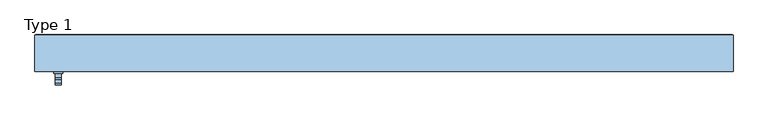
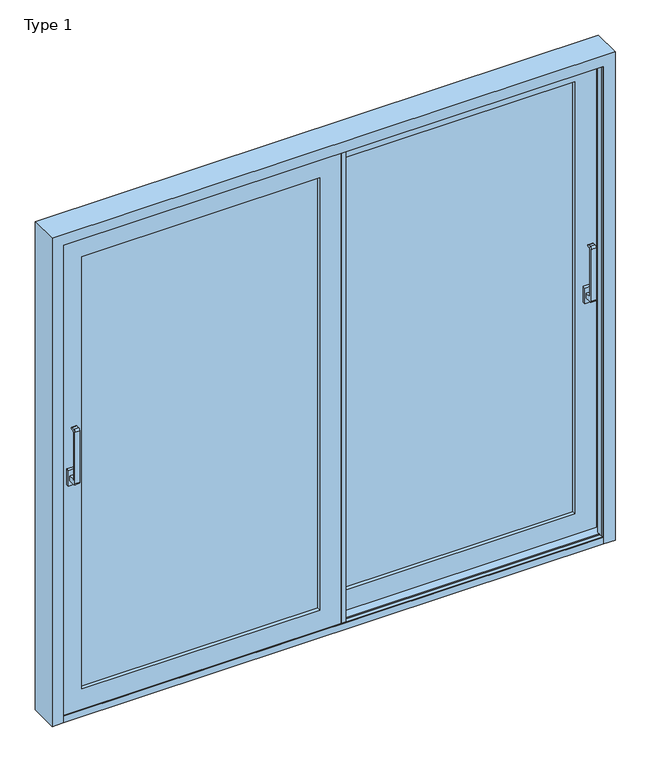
"""IFC4 building model written with IfcOpenShell, lengths in millimetres: window geometry, ETEM_E50_Double_Lift_Sliding_FR : Type 1."""

import ifcopenshell
import ifcopenshell.guid

model = None  # the IFC model being written
_history = None  # IfcOwnerHistory: only IFC2X3 demands one
_inside = {}  # id of a spatial element -> (the spatial element, [elements in it])
_under = {}  # id of a project, library or spatial element -> (it, [spatial elements below it])
_declared = {}  # id of a project -> (the project, [libraries it declares])
_typed = {}  # id of a type object -> (the type object, [elements of that type])
_made_of = {}  # id of a material, layer set ... -> (it, [elements and type objects made of it])


def new_model(schema):
    """Start an empty IFC model of exactly this schema.

    Asked for "IFC4X3", IfcOpenShell would pick the latest addendum, in which some entities
    have other attributes; the version numbers below select the first issue.
    IFC2X3 requires an IfcOwnerHistory on every rooted entity: one is made here for all.
    """
    global model, _history
    if schema == "IFC4X3":
        model = ifcopenshell.file(schema_version=(4, 3, 0, 0))
    else:
        model = ifcopenshell.file(schema=schema)
    _inside.clear()
    _under.clear()
    _declared.clear()
    _typed.clear()
    _made_of.clear()
    _history = None
    if model.schema == "IFC2X3":
        org = make("IfcOrganization", Name="unknown")
        user = make(
            "IfcPersonAndOrganization",
            ThePerson=make("IfcPerson", FamilyName="unknown"),
            TheOrganization=org,
        )
        app = make(
            "IfcApplication",
            ApplicationDeveloper=org,
            Version="unknown",
            ApplicationFullName="unknown",
            ApplicationIdentifier="unknown",
        )
        _history = make(
            "IfcOwnerHistory",
            OwningUser=user,
            OwningApplication=app,
            ChangeAction="ADDED",
            CreationDate=0,
        )
    return model


def make(cls, **values):
    """One entity of the class cls with the attributes given. An attribute that is None is left unset."""
    return model.create_entity(
        cls, **{name: value for name, value in values.items() if value is not None}
    )


def rooted(cls, **values):
    """An entity with a GlobalId (a new one), such as an element, a storey or a relation."""
    return make(cls, GlobalId=ifcopenshell.guid.new(), OwnerHistory=_history, **values)


def si_unit(unit_type, name, prefix=None):
    """IfcSIUnit, for example si_unit("LENGTHUNIT", "METRE", prefix="MILLI")."""
    return make("IfcSIUnit", UnitType=unit_type, Prefix=prefix, Name=name)


def assignment(units):
    """IfcUnitAssignment: the units of a project."""
    return None if units is None else make("IfcUnitAssignment", Units=units)


def point(xyz):
    """IfcCartesianPoint."""
    return None if xyz is None else make("IfcCartesianPoint", Coordinates=xyz)


def direction(xyz):
    """IfcDirection."""
    return None if xyz is None else make("IfcDirection", DirectionRatios=xyz)


def frame(location, z_axis=None, x_axis=None):
    """IfcAxis2Placement3D, a coordinate frame: its origin and axes. An axis left out is left unset."""
    return make(
        "IfcAxis2Placement3D",
        Location=point(location),
        Axis=direction(z_axis),
        RefDirection=direction(x_axis),
    )


def frame_2d(location, x_axis=None):
    """IfcAxis2Placement2D, a coordinate frame in the plane: its origin and x axis."""
    return make(
        "IfcAxis2Placement2D", Location=point(location), RefDirection=direction(x_axis)
    )


def origin():
    """The frame at (0, 0, 0) with its axes left unset."""
    return frame((0.0, 0.0, 0.0))


def place(relative_to, where):
    """IfcLocalPlacement: puts the frame where relative to a parent placement (None: the world)."""
    return make(
        "IfcLocalPlacement", PlacementRelTo=relative_to, RelativePlacement=where
    )


def context(
    kind, dimensions, precision=None, world=None, true_north=None, identifier=None
):
    """IfcGeometricRepresentationContext, for example the 3D "Model" context."""
    return make(
        "IfcGeometricRepresentationContext",
        ContextIdentifier=identifier,
        ContextType=kind,
        CoordinateSpaceDimension=dimensions,
        Precision=precision,
        WorldCoordinateSystem=world,
        TrueNorth=true_north,
    )


def project(units=None, contexts=None):
    """IfcProject with its units and contexts."""
    return rooted(
        "IfcProject",
        Name="project",
        RepresentationContexts=contexts,
        UnitsInContext=assignment(units),
    )


def spatial(cls, under=None, at=None, **own):
    """A site, building, storey or space (cls), placed at a placement, below another one or the project."""
    s = rooted(cls, ObjectPlacement=at, **own)
    if under is not None:
        _under.setdefault(under.id(), (under, []))[1].append(s)
    return s


def polyline(points):
    """IfcPolyline through the points."""
    return make("IfcPolyline", Points=[point(p) for p in points])


def circle_curve(where, radius):
    """IfcCircle in the frame where."""
    return make("IfcCircle", Position=where, Radius=radius)


def trimmed(basis, trim1, trim2, sense, master):
    """IfcTrimmedCurve: the piece of a basis curve between two trims."""
    return make(
        "IfcTrimmedCurve",
        BasisCurve=basis,
        Trim1=trim1,
        Trim2=trim2,
        SenseAgreement=sense,
        MasterRepresentation=master,
    )


def segment(curve, same_sense, transition):
    """IfcCompositeCurveSegment."""
    return make(
        "IfcCompositeCurveSegment",
        Transition=transition,
        SameSense=same_sense,
        ParentCurve=curve,
    )


def composite_curve(segments, self_intersect=None):
    """IfcCompositeCurve: segments joined end to end."""
    return make("IfcCompositeCurve", Segments=segments, SelfIntersect=self_intersect)


def outline(outer, holes=None, kind="AREA"):
    """IfcArbitraryClosedProfileDef: a profile drawn as a closed curve; with holes, ...WithVoids."""
    if holes is None:
        return make("IfcArbitraryClosedProfileDef", ProfileType=kind, OuterCurve=outer)
    return make(
        "IfcArbitraryProfileDefWithVoids",
        ProfileType=kind,
        OuterCurve=outer,
        InnerCurves=holes,
    )


def extrude(swept, where, along, depth):
    """IfcExtrudedAreaSolid: the profile swept, set in the frame where, extruded along a direction by depth."""
    return make(
        "IfcExtrudedAreaSolid",
        SweptArea=swept,
        Position=where,
        ExtrudedDirection=direction(along),
        Depth=depth,
    )


def faces_of(points, faces, orient=None, outer=None):
    """IfcFace entities. A face is a list of loops; a loop is a list of indices into points, from 0.

    orient and outer hold one flag for each loop. By default every Orientation is true, the
    first loop of a face is its IfcFaceOuterBound and the others are IfcFaceBound.
    """
    made = []
    for i, loops in enumerate(faces):
        bounds = []
        for j, loop in enumerate(loops):
            is_outer = j == 0 if outer is None else outer[i][j]
            bounds.append(
                make(
                    "IfcFaceOuterBound" if is_outer else "IfcFaceBound",
                    Bound=make("IfcPolyLoop", Polygon=[points[k] for k in loop]),
                    Orientation=True if orient is None else orient[i][j],
                )
            )
        made.append(make("IfcFace", Bounds=bounds))
    return made


def faceted_brep(points, faces, orient=None, outer=None, voids=None):
    """IfcFacetedBrep: a solid bounded by flat faces; with voids (closed shells), ...WithVoids."""
    shared = [point(p) for p in points]
    hull = make("IfcClosedShell", CfsFaces=faces_of(shared, faces, orient, outer))
    if voids is None:
        return make("IfcFacetedBrep", Outer=hull)
    return make(
        "IfcFacetedBrepWithVoids",
        Outer=hull,
        Voids=[
            make(cls, CfsFaces=faces_of(shared, fs, o, b)) for cls, fs, o, b in voids
        ],
    )


def shape(context_of_items, identifier, shape_type, items):
    """IfcShapeRepresentation: the items that make up one representation, for example the "Body"."""
    return make(
        "IfcShapeRepresentation",
        ContextOfItems=context_of_items,
        RepresentationIdentifier=identifier,
        RepresentationType=shape_type,
        Items=items,
    )


def source(mapping_origin, context_of_items, identifier, shape_type, items):
    """IfcRepresentationMap: a shape defined once, which mapped items show again and again."""
    return make(
        "IfcRepresentationMap",
        MappingOrigin=mapping_origin,
        MappedRepresentation=shape(context_of_items, identifier, shape_type, items),
    )


def transform(
    local_origin,
    x_axis=None,
    y_axis=None,
    z_axis=None,
    scale=None,
    scale2=None,
    scale3=None,
    uniform=True,
):
    """IfcCartesianTransformationOperator3D, or its non-uniform kind. x_axis, y_axis, z_axis: its Axis1, 2, 3."""
    if uniform:
        return make(
            "IfcCartesianTransformationOperator3D",
            Axis1=direction(x_axis),
            Axis2=direction(y_axis),
            LocalOrigin=point(local_origin),
            Scale=scale,
            Axis3=direction(z_axis),
        )
    return make(
        "IfcCartesianTransformationOperator3DnonUniform",
        Axis1=direction(x_axis),
        Axis2=direction(y_axis),
        LocalOrigin=point(local_origin),
        Scale=scale,
        Axis3=direction(z_axis),
        Scale2=scale2,
        Scale3=scale3,
    )


def mapped(mapping_source, mapping_target):
    """IfcMappedItem: shows the shape of a source again, moved by a transform."""
    return make(
        "IfcMappedItem", MappingSource=mapping_source, MappingTarget=mapping_target
    )


def made_of(thing, what):
    """Note that an element or type object is made of a material, layer set ...; save() writes the relation."""
    if what is not None:
        _made_of.setdefault(what.id(), (what, []))[1].append(thing)
    return thing


def element(
    cls,
    number,
    at=None,
    inside=None,
    cuts=None,
    type_object=None,
    material=None,
    context=None,
    identifier="Body",
    shape_type=None,
    held_by="IfcProductDefinitionShape",
    body=None,
    shapes=None,
    **own,
):
    """One element of the class cls, such as IfcWall. Its Tag is "e" and its number.

    at: its placement. inside: the storey or other place that contains it. cuts: it is an
    opening in that element (IfcRelVoidsElement). A single representation is given by context,
    identifier, shape_type and body (its items); several are given by shapes. held_by: the class
    of the entity that holds the representations. save() writes the other relations.
    """
    e = rooted(cls, Tag="e%d" % number, ObjectPlacement=at, **own)
    if body is not None:
        shapes = [shape(context, identifier, shape_type, body)]
    if shapes is not None:
        e.Representation = make(held_by, Representations=shapes)
    if inside is not None:
        _inside.setdefault(inside.id(), (inside, []))[1].append(e)
    if cuts is not None:
        rooted(
            "IfcRelVoidsElement", RelatingBuildingElement=cuts, RelatedOpeningElement=e
        )
    if type_object is not None:
        _typed.setdefault(type_object.id(), (type_object, []))[1].append(e)
    return made_of(e, material)


def aggregate(whole, parts):
    """IfcRelAggregates: a whole, such as a stair, and the parts it consists of."""
    return rooted("IfcRelAggregates", RelatingObject=whole, RelatedObjects=parts)


def save(model, path):
    """Write the relations noted so far, then the file.

    IfcRelAggregates (storeys below a building ...), IfcRelContainedInSpatialStructure (elements
    in a storey), IfcRelDefinesByType, IfcRelAssociatesMaterial and IfcRelDeclares: one each for
    every whole, place, type object, material and project.
    """
    for whole, parts in _under.values():
        aggregate(whole, parts)
    for where, things in _inside.values():
        rooted(
            "IfcRelContainedInSpatialStructure",
            RelatedElements=things,
            RelatingStructure=where,
        )
    for kind, things in _typed.values():
        rooted("IfcRelDefinesByType", RelatedObjects=things, RelatingType=kind)
    for what, things in _made_of.values():
        rooted("IfcRelAssociatesMaterial", RelatedObjects=things, RelatingMaterial=what)
    for by, libraries in _declared.values():
        rooted("IfcRelDeclares", RelatingContext=by, RelatedDefinitions=libraries)
    model.write(path)


def type_1_7b7dd12c(model_context):
    return source(origin(), model_context, "Body", "SolidModel", [
        extrude(outline(polyline([(1133.5, 36.3481944), (1103.5, 36.3481944), (1103.5, 49.3481944), (1133.5, 49.3481944), (1133.5, 36.3481944)])), frame((0.0, 0.0, 1065.0), z_axis=(0.0, 0.0, 1.0), x_axis=(1.0, 0.0, 0.0)), (0.0, 0.0, 1.0), 70.0),
        extrude(outline(composite_curve([segment(polyline([(36.3481944, 1090.0), (4.7745096, 1090.0)]), True, "CONTINUOUS"), segment(trimmed(circle_curve(frame_2d((4.7745096, 1098.4263152)), 8.4263152), [point((4.7745096, 1090.0))], [point((-3.6518056, 1098.4263152))], False, "CARTESIAN"), True, "CONTINUOUS"), segment(polyline([(-3.6518056, 1098.4263152), (-3.6518056, 1331.5736848)]), True, "CONTINUOUS"), segment(trimmed(circle_curve(frame_2d((4.7745096, 1331.5736848)), 8.4263152), [point((-3.6518056, 1331.5736848))], [point((4.7745096, 1340.0))], False, "CARTESIAN"), True, "CONTINUOUS"), segment(polyline([(4.7745096, 1340.0), (16.3481944, 1340.0)]), True, "CONTINUOUS"), segment(trimmed(circle_curve(frame_2d((16.3481944, 1335.0)), 5.0), [point((16.3481944, 1340.0))], [point((16.3481944, 1330.0))], False, "CARTESIAN"), True, "CONTINUOUS"), segment(polyline([(16.3481944, 1330.0), (9.8837283, 1330.0)]), True, "CONTINUOUS"), segment(trimmed(circle_curve(frame_2d((9.8837283, 1326.4644661)), 3.5355339), [point((9.8837283, 1330.0))], [point((6.3481944, 1326.4644661))], True, "CARTESIAN"), True, "CONTINUOUS"), segment(polyline([(6.3481944, 1326.4644661), (6.3481944, 1113.5355339)]), True, "CONTINUOUS"), segment(trimmed(circle_curve(frame_2d((9.8837283, 1113.5355339)), 3.5355339), [point((6.3481944, 1113.5355339))], [point((9.8837283, 1110.0))], True, "CARTESIAN"), True, "CONTINUOUS"), segment(polyline([(9.8837283, 1110.0), (36.3481944, 1110.0), (36.3481944, 1090.0)]), True, "CONTINUOUS")], self_intersect=False)), frame((1108.5, 0.0, 0.0), z_axis=(1.0, 0.0, 0.0), x_axis=(0.0, 1.0, 0.0)), (0.0, 0.0, 1.0), 20.0),
        extrude(outline(polyline([(-1104.999965, -28.6518056), (-1134.999965, -28.6518056), (-1134.999965, -15.6518056), (-1104.999965, -15.6518056), (-1104.999965, -28.6518056)])), frame((0.0, 0.0, 1065.0), z_axis=(0.0, 0.0, 1.0), x_axis=(1.0, 0.0, 0.0)), (0.0, 0.0, 1.0), 70.0),
        extrude(outline(composite_curve([segment(polyline([(-28.6518056, 1090.0), (-60.2254904, 1090.0)]), True, "CONTINUOUS"), segment(trimmed(circle_curve(frame_2d((-60.2254904, 1098.4263152)), 8.4263152), [point((-60.2254904, 1090.0))], [point((-68.6518056, 1098.4263152))], False, "CARTESIAN"), True, "CONTINUOUS"), segment(polyline([(-68.6518056, 1098.4263152), (-68.6518056, 1331.5736848)]), True, "CONTINUOUS"), segment(trimmed(circle_curve(frame_2d((-60.2254904, 1331.5736848)), 8.4263152), [point((-68.6518056, 1331.5736848))], [point((-60.2254904, 1340.0))], False, "CARTESIAN"), True, "CONTINUOUS"), segment(polyline([(-60.2254904, 1340.0), (-48.6518056, 1340.0)]), True, "CONTINUOUS"), segment(trimmed(circle_curve(frame_2d((-48.6518056, 1335.0)), 5.0), [point((-48.6518056, 1340.0))], [point((-48.6518056, 1330.0))], False, "CARTESIAN"), True, "CONTINUOUS"), segment(polyline([(-48.6518056, 1330.0), (-55.1162717, 1330.0)]), True, "CONTINUOUS"), segment(trimmed(circle_curve(frame_2d((-55.1162717, 1326.4644661)), 3.5355339), [point((-55.1162717, 1330.0))], [point((-58.6518056, 1326.4644661))], True, "CARTESIAN"), True, "CONTINUOUS"), segment(polyline([(-58.6518056, 1326.4644661), (-58.6518056, 1113.5355339)]), True, "CONTINUOUS"), segment(trimmed(circle_curve(frame_2d((-55.1162717, 1113.5355339)), 3.5355339), [point((-58.6518056, 1113.5355339))], [point((-55.1162717, 1110.0))], True, "CARTESIAN"), True, "CONTINUOUS"), segment(polyline([(-55.1162717, 1110.0), (-28.6518056, 1110.0), (-28.6518056, 1090.0)]), True, "CONTINUOUS")], self_intersect=False)), frame((-1129.999965, 0.0, 0.0), z_axis=(1.0, 0.0, 0.0), x_axis=(0.0, 1.0, 0.0)), (0.0, 0.0, 1.0), 20.0),
        faceted_brep([(35.5, -10.9518056, 2160.5), (35.5, -15.6518056, 2160.5), (35.5, -15.6518056, 29.970192), (35.5, -10.9518056, 29.970192), (-1160.499965, -15.6518056, 2160.5), (-1160.499965, -15.6518056, 29.970192), (-56.0, -15.6518056, 121.470192), (-1068.999965, -15.6518056, 121.470192), (-1068.999965, -15.6518056, 2069.0), (-56.0, -15.6518056, 2069.0), (-1160.499965, -10.9518056, 29.970192), (-1160.499965, -10.9518056, 2160.5), (6.3, -10.9518056, 2131.3), (-1131.299965, -10.9518056, 2131.3), (-1131.299965, -10.9518056, 59.170192), (6.3, -10.9518056, 59.170192), (6.3, 29.6481944, 2131.3), (6.3, 29.6481944, 59.170192), (-1131.299965, 29.6481944, 59.170192), (35.5, 29.6481944, 2160.5), (-1160.499965, 29.6481944, 2160.5), (-1160.499965, 29.6481944, 29.970192), (35.5, 29.6481944, 29.970192), (-1131.299965, 29.6481944, 2131.3), (35.5, 34.3481944, 2160.5), (35.5, 34.3481944, 29.970192), (-1160.499965, 34.3481944, 29.970192), (-1160.499965, 34.3481944, 2160.5), (-56.0, 34.3481944, 2069.0), (-1068.999965, 34.3481944, 2069.0), (-1068.999965, 34.3481944, 121.470192), (-56.0, 34.3481944, 121.470192)], [[[0, 1, 2, 3]], [[1, 4, 5, 2], [6, 7, 8, 9]], [[3, 2, 5, 10]], [[3, 10, 11, 0], [12, 13, 14, 15]], [[16, 12, 15, 17]], [[17, 15, 14, 18]], [[19, 20, 21, 22], [17, 18, 23, 16]], [[24, 19, 22, 25]], [[25, 22, 21, 26]], [[25, 26, 27, 24], [28, 29, 30, 31]], [[10, 5, 4, 11]], [[18, 14, 13, 23]], [[26, 21, 20, 27]], [[11, 4, 1, 0]], [[23, 13, 12, 16]], [[27, 20, 19, 24]], [[6, 31, 30, 7]], [[7, 30, 29, 8]], [[9, 28, 31, 6]], [[8, 29, 28, 9]]]),
        faceted_brep([(-35.5, 94.6481944, 2160.5), (-35.5, 99.3481944, 2160.5), (-35.5, 99.3481944, 29.970192), (-35.5, 94.6481944, 29.970192), (1160.499965, 99.3481944, 29.970192), (1160.499965, 94.6481944, 29.970192), (1160.499965, 99.3481944, 2160.5), (1069.0, 99.3481944, 121.470157), (1069.0, 99.3481944, 2069.000035), (55.999965, 99.3481944, 2069.000035), (55.999965, 99.3481944, 121.470157), (1160.499965, 94.6481944, 2160.5), (-6.3, 94.6481944, 59.170192), (-6.3, 94.6481944, 2131.3), (1131.299965, 94.6481944, 2131.3), (1131.299965, 94.6481944, 59.170192), (-6.3, 54.0481944, 2131.3), (-6.3, 54.0481944, 59.170192), (1131.299965, 54.0481944, 59.170192), (1131.299965, 54.0481944, 2131.3), (-35.5, 54.0481944, 29.970192), (-35.5, 54.0481944, 2160.5), (1160.499965, 54.0481944, 2160.5), (1160.499965, 54.0481944, 29.970192), (-35.5, 49.4240972, 2160.5), (-35.5, 49.4240972, 29.970192), (1160.499965, 49.4240972, 29.970192), (1160.499965, 49.4240972, 2160.5), (55.999965, 49.4240972, 121.470157), (55.999965, 49.4240972, 2069.000035), (1069.0, 49.4240972, 2069.000035), (1069.0, 49.4240972, 121.470157)], [[[0, 1, 2, 3]], [[3, 2, 4, 5]], [[2, 1, 6, 4], [7, 8, 9, 10]], [[5, 4, 6, 11]], [[5, 11, 0, 3], [12, 13, 14, 15]], [[16, 13, 12, 17]], [[17, 12, 15, 18]], [[18, 15, 14, 19]], [[20, 21, 22, 23], [18, 19, 16, 17]], [[24, 21, 20, 25]], [[25, 20, 23, 26]], [[26, 23, 22, 27]], [[26, 27, 24, 25], [28, 29, 30, 31]], [[9, 29, 28, 10]], [[10, 28, 31, 7]], [[7, 31, 30, 8]], [[11, 6, 1, 0]], [[19, 14, 13, 16]], [[27, 22, 21, 24]], [[8, 30, 29, 9]]]),
        extrude(outline(polyline([(55.999965, -15.6518056), (35.5, -15.6518056), (35.5, 45.3481944), (55.999965, 45.3481944), (55.999965, -15.6518056)])), frame((0.0, 0.0, 29.970192), z_axis=(0.0, 0.0, 1.0), x_axis=(1.0, 0.0, 0.0)), (0.0, 0.0, 1.0), 2130.529808),
        extrude(outline(polyline([(-56.0, 38.3481944), (-56.0, 99.3481944), (-35.5, 99.3481944), (-35.5, 38.3481944), (-56.0, 38.3481944)])), frame((0.0, 0.0, 29.970192), z_axis=(0.0, 0.0, 1.0), x_axis=(1.0, 0.0, 0.0)), (0.0, 0.0, 1.0), 2130.529808),
        extrude(outline(polyline([(-56.0, 0.3481944), (-1068.999965, 0.3481944), (-1068.999965, 5.3481944), (-56.0, 5.3481944), (-56.0, 0.3481944)])), frame((0.0, 0.0, 121.470192), z_axis=(0.0, 0.0, 1.0), x_axis=(1.0, 0.0, 0.0)), (0.0, 0.0, 1.0), 1947.529808),
        extrude(outline(polyline([(55.999965, 91.3480733), (1069.0, 91.3480733), (1069.0, 86.3480733), (55.999965, 86.3480733), (55.999965, 91.3480733)])), frame((0.0, 0.0, 121.470157), z_axis=(0.0, 0.0, 1.0), x_axis=(1.0, 0.0, 0.0)), (0.0, 0.0, 1.0), 1947.529878),
        faceted_brep([(-1151.499965, 105.0, 0.0), (-1151.499965, 101.4, 0.0), (-1178.199965, 101.4, 0.0), (-1178.2, 78.8481944, 0.0), (-1159.5, 78.8481944, 0.0), (-1159.5, 90.3481944, 0.0), (-1151.5, 90.3481944, 0.0), (-1151.5, 58.3481944, 0.0), (-1159.5, 58.3481944, 0.0), (-1159.5, 69.8481944, 0.0), (-1178.2, 69.8481944, 0.0), (-1178.2, 13.8481944, 0.0), (-1159.5, 13.8481944, 0.0), (-1159.5, 25.3481944, 0.0), (-1151.5, 25.3481944, 0.0), (-1151.5, -6.6518056, 0.0), (-1159.5, -6.6518056, 0.0), (-1159.5, 4.8481944, 0.0), (-1178.2, 4.8481944, 0.0), (-1178.2, -17.6518056, 0.0), (-1151.5, -17.6518056, 0.0), (-1151.5, -21.2518056, 0.0), (-1200.0, -21.2518056, 0.0), (-1200.0, 103.5481944, 0.0), (-1196.499965, 103.5481944, 0.0), (-1196.499965, 105.0, 0.0), (-1151.499965, 105.0, 2151.499965), (-1151.499965, 101.4, 2151.499965), (1151.499965, 105.0, 0.0), (1151.499965, 101.4, 0.0), (1151.499965, 101.4, 2151.499965), (1151.499965, 105.0, 2151.499965), (1196.499965, 103.5481944, 0.0), (1196.499965, 105.0, 0.0), (1196.499965, 105.0, 2196.499965), (1196.499965, 103.5481944, 2196.499965), (-1196.499965, 103.5481944, 2196.499965), (-1196.499965, 105.0, 2196.499965), (1159.5, 78.8481944, 0.0), (1159.5, 90.3481944, 0.0), (1159.5, 90.3481944, 2159.5), (1159.5, 78.8481944, 2159.5), (1151.5, 90.3481944, 0.0), (1151.5, 58.3481944, 0.0), (1151.5, 58.3481944, 2151.5), (1151.5, 90.3481944, 2151.5), (1178.2, 69.8481944, 0.0), (1178.2, 13.8481944, 0.0), (1178.2, 13.8481944, 2178.2), (1178.2, 69.8481944, 2178.2), (1151.5, 25.3481944, 0.0), (1151.5, -6.6518056, 0.0), (1151.5, -6.6518056, 2151.5), (1151.5, 25.3481944, 2151.5), (1159.5, 13.8481944, 0.0), (1159.5, 25.3481944, 0.0), (1159.5, 25.3481944, 2159.5), (1159.5, 13.8481944, 2159.5), (1178.2, 4.8481944, 0.0), (1178.2, -17.6518056, 0.0), (1178.2, -17.6518056, 2178.2), (1178.2, 4.8481944, 2178.2), (1151.5, -17.6518056, 0.0), (1151.5, -21.2518056, 0.0), (1151.5, -21.2518056, 2151.5), (1151.5, -17.6518056, 2151.5), (-1159.5, 78.8481944, 2159.5), (-1159.5, 90.3481944, 2159.5), (-1151.5, 90.3481944, 2151.5), (-1151.5, 58.3481944, 2151.5), (-1178.2, 69.8481944, 2178.2), (-1178.2, 13.8481944, 2178.2), (-1151.5, 25.3481944, 2151.5), (-1151.5, -6.6518056, 2151.5), (-1159.5, 13.8481944, 2159.5), (-1159.5, 25.3481944, 2159.5), (-1178.2, 4.8481944, 2178.2), (-1178.2, -17.6518056, 2178.2), (-1151.5, -17.6518056, 2151.5), (-1151.5, -21.2518056, 2151.5), (-1159.5, 58.3481944, 2159.5), (-1159.5, 69.8481944, 2159.5), (1159.5, 58.3481944, 0.0), (1159.5, 69.8481944, 0.0), (1159.5, 69.8481944, 2159.5), (1159.5, 58.3481944, 2159.5), (-1159.5, -6.6518056, 2159.5), (-1159.5, 4.8481944, 2159.5), (1159.5, -6.6518056, 0.0), (1159.5, 4.8481944, 0.0), (1159.5, 4.8481944, 2159.5), (1159.5, -6.6518056, 2159.5), (1178.199965, 101.4, 0.0), (1178.199965, 101.4, 2178.199965), (-1178.199965, 101.4, 2178.199965), (1200.0, -21.2518056, 0.0), (1200.0, 103.5481944, 0.0), (1200.0, 103.5481944, 2200.0), (1200.0, -21.2518056, 2200.0), (-1200.0, -21.2518056, 2200.0), (-1200.0, 103.5481944, 2200.0), (1178.199965, 78.8481944, 0.0), (1178.199965, 78.8481944, 2178.2), (-1178.199965, 78.8481944, 2178.2)], [[[0, 1, 2, 3, 4, 5, 6, 7, 8, 9, 10, 11, 12, 13, 14, 15, 16, 17, 18, 19, 20, 21, 22, 23, 24, 25]], [[1, 0, 26, 27]], [[28, 29, 30, 31]], [[32, 33, 34, 35]], [[25, 24, 36, 37]], [[0, 25, 37, 34, 33, 28, 31, 26]], [[38, 39, 40, 41]], [[42, 43, 44, 45]], [[46, 47, 48, 49]], [[50, 51, 52, 53]], [[54, 55, 56, 57]], [[58, 59, 60, 61]], [[62, 63, 64, 65]], [[5, 4, 66, 67]], [[7, 6, 68, 69]], [[11, 10, 70, 71]], [[15, 14, 72, 73]], [[13, 12, 74, 75]], [[19, 18, 76, 77]], [[21, 20, 78, 79]], [[34, 37, 36, 35]], [[26, 31, 30, 27]], [[41, 40, 67, 66]], [[45, 44, 69, 68]], [[49, 48, 71, 70]], [[53, 52, 73, 72]], [[57, 56, 75, 74]], [[61, 60, 77, 76]], [[65, 64, 79, 78]], [[9, 8, 80, 81]], [[82, 83, 84, 85]], [[17, 16, 86, 87]], [[88, 89, 90, 91]], [[84, 81, 80, 85]], [[86, 91, 90, 87]], [[2, 1, 27, 30, 29, 92, 93, 94]], [[95, 96, 97, 98]], [[23, 22, 99, 100]], [[92, 101, 102, 93]], [[3, 2, 94, 103]], [[98, 97, 100, 99]], [[103, 94, 93, 102]], [[4, 3, 103, 102, 101, 38, 41, 66]], [[6, 5, 67, 40, 39, 42, 45, 68]], [[8, 7, 69, 44, 43, 82, 85, 80]], [[10, 9, 81, 84, 83, 46, 49, 70]], [[12, 11, 71, 48, 47, 54, 57, 74]], [[14, 13, 75, 56, 55, 50, 53, 72]], [[16, 15, 73, 52, 51, 88, 91, 86]], [[18, 17, 87, 90, 89, 58, 61, 76]], [[20, 19, 77, 60, 59, 62, 65, 78]], [[22, 21, 79, 64, 63, 95, 98, 99]], [[97, 96, 32, 35, 36, 24, 23, 100]], [[28, 33, 32, 96, 95, 63, 62, 59, 58, 89, 88, 51, 50, 55, 54, 47, 46, 83, 82, 43, 42, 39, 38, 101, 92, 29]]]),
        extrude(outline(polyline([(55.999965, 70.3481944), (1069.0, 70.3481944), (1069.0, 65.3481944), (55.999965, 65.3481944), (55.999965, 70.3481944)])), frame((0.0, 0.0, 121.470157), z_axis=(0.0, 0.0, 1.0), x_axis=(1.0, 0.0, 0.0)), (0.0, 0.0, 1.0), 1947.529878),
        extrude(outline(polyline([(-56.0, 21.3480733), (-1068.999965, 21.3480733), (-1068.999965, 26.3480733), (-56.0, 26.3480733), (-56.0, 21.3480733)])), frame((0.0, 0.0, 121.470192), z_axis=(0.0, 0.0, 1.0), x_axis=(1.0, 0.0, 0.0)), (0.0, 0.0, 1.0), 1947.529808),
        faceted_brep([(1178.199965, 100.7481944, 0.0), (-1178.199965, 100.7481944, 0.0), (-1178.199965, 100.7481944, 25.0), (1178.199965, 100.7481944, 25.0), (-1178.199965, 78.8481944, 25.0), (-1159.5, 78.8481944, 25.0), (-1159.5, 90.3481944, 25.0), (-1151.5, 90.3481944, 25.0), (-1151.5, 76.8481944, 25.0), (1151.5, 76.8481944, 25.0), (1151.5, 90.3481944, 25.0), (1159.5, 90.3481944, 25.0), (1159.5, 78.8481944, 25.0), (1178.199965, 78.8481944, 25.0), (-1151.5, 76.8481944, 21.1999997), (1151.5, 76.8481944, 21.1999997), (-1151.5, 71.8481944, 21.1999997), (1151.5, 71.8481944, 21.1999997), (-1151.5, 71.8481944, 25.0), (1151.5, 71.8481944, 25.0), (-1151.5, 58.3481944, 25.0), (-1159.5, 58.3481944, 25.0), (-1159.5, 69.8481944, 25.0), (-1178.2, 69.8481944, 25.0), (-1178.2, 13.8481944, 25.0), (-1159.5, 13.8481944, 25.0), (-1159.5, 25.3481944, 25.0), (-1151.5, 25.3481944, 25.0), (-1151.5, 11.8481944, 25.0), (1151.5, 11.8481944, 25.0), (1151.5, 25.3481944, 25.0), (1159.5, 25.3481944, 25.0), (1159.5, 13.8481944, 25.0), (1178.2, 13.8481944, 25.0), (1178.2, 69.8481944, 25.0), (1159.5, 69.8481944, 25.0), (1159.5, 58.3481944, 25.0), (1151.5, 58.3481944, 25.0), (-1151.5, 11.8481944, 21.1999997), (1151.5, 11.8481944, 21.1999997), (-1151.5, 6.8481944, 21.1999997), (1151.5, 6.8481944, 21.1999997), (-1151.5, 6.8481944, 25.0), (1151.5, 6.8481944, 25.0), (-1151.5, -6.6518056, 25.0), (-1159.5, -6.6518056, 25.0), (-1159.5, 4.8481944, 25.0), (-1178.2, 4.8481944, 25.0), (-1178.2, -17.4518056, 25.0), (-1151.5, -17.4518056, 25.0), (1151.5, -17.4518056, 25.0), (1178.2, -17.4518056, 25.0), (1178.2, 4.8481944, 25.0), (1159.5, 4.8481944, 25.0), (1159.5, -6.6518056, 25.0), (1151.5, -6.6518056, 25.0), (-1151.5, -17.4518056, 29.970192), (1151.5, -17.4518056, 29.970192), (-1151.5, -21.2518056, 29.970192), (1151.5, -21.2518056, 29.970192), (-1151.5, -21.2518056, 0.0), (1151.5, -21.2518056, 0.0), (1178.199965, 78.8481944, 0.0), (1159.5, 78.8481944, 0.0), (1159.5, 90.3481944, 0.0), (1151.5, 90.3481944, 0.0), (1151.5, 58.3481944, 0.0), (1159.5, 58.3481944, 0.0), (1159.5, 69.8481944, 0.0), (1178.2, 69.8481944, 0.0), (1178.2, 13.8481944, 0.0), (1159.5, 13.8481944, 0.0), (1159.5, 25.3481944, 0.0), (1151.5, 25.3481944, 0.0), (1151.5, -6.6518056, 0.0), (1159.5, -6.6518056, 0.0), (1159.5, 4.8481944, 0.0), (1178.2, 4.8481944, 0.0), (1178.2, -17.4518056, 0.0), (1151.5, -17.4518056, 0.0), (-1151.5, -17.4518056, 0.0), (-1178.2, -17.4518056, 0.0), (-1178.2, 4.8481944, 0.0), (-1159.5, 4.8481944, 0.0), (-1159.5, -6.6518056, 0.0), (-1151.5, -6.6518056, 0.0), (-1151.5, 25.3481944, 0.0), (-1159.5, 25.3481944, 0.0), (-1159.5, 13.8481944, 0.0), (-1178.2, 13.8481944, 0.0), (-1178.2, 69.8481944, 0.0), (-1159.5, 69.8481944, 0.0), (-1159.5, 58.3481944, 0.0), (-1151.5, 58.3481944, 0.0), (-1151.5, 90.3481944, 0.0), (-1159.5, 90.3481944, 0.0), (-1159.5, 78.8481944, 0.0), (-1178.199965, 78.8481944, 0.0)], [[[0, 1, 2, 3]], [[3, 2, 4, 5, 6, 7, 8, 9, 10, 11, 12, 13]], [[9, 8, 14, 15]], [[15, 14, 16, 17]], [[17, 16, 18, 19]], [[19, 18, 20, 21, 22, 23, 24, 25, 26, 27, 28, 29, 30, 31, 32, 33, 34, 35, 36, 37]], [[29, 28, 38, 39]], [[39, 38, 40, 41]], [[41, 40, 42, 43]], [[43, 42, 44, 45, 46, 47, 48, 49, 50, 51, 52, 53, 54, 55]], [[50, 49, 56, 57]], [[57, 56, 58, 59]], [[59, 58, 60, 61]], [[1, 0, 62, 63, 64, 65, 66, 67, 68, 69, 70, 71, 72, 73, 74, 75, 76, 77, 78, 79, 61, 60, 80, 81, 82, 83, 84, 85, 86, 87, 88, 89, 90, 91, 92, 93, 94, 95, 96, 97]], [[49, 80, 60, 58, 56]], [[80, 49, 48, 81]], [[81, 48, 47, 82]], [[82, 47, 46, 83]], [[83, 46, 45, 84]], [[84, 45, 44, 85]], [[85, 44, 42, 40, 38, 28, 27, 86]], [[86, 27, 26, 87]], [[87, 26, 25, 88]], [[88, 25, 24, 89]], [[89, 24, 23, 90]], [[90, 23, 22, 91]], [[91, 22, 21, 92]], [[92, 21, 20, 93]], [[93, 20, 18, 16, 14, 8, 7, 94]], [[94, 7, 6, 95]], [[95, 6, 5, 96]], [[96, 5, 4, 97]], [[97, 4, 2, 1]], [[13, 62, 0, 3]], [[62, 13, 12, 63]], [[63, 12, 11, 64]], [[64, 11, 10, 65]], [[65, 10, 9, 15, 17, 19, 37, 66]], [[66, 37, 36, 67]], [[67, 36, 35, 68]], [[68, 35, 34, 69]], [[69, 34, 33, 70]], [[70, 33, 32, 71]], [[71, 32, 31, 72]], [[72, 31, 30, 73]], [[73, 30, 29, 39, 41, 43, 55, 74]], [[74, 55, 54, 75]], [[75, 54, 53, 76]], [[76, 53, 52, 77]], [[51, 78, 77, 52]], [[78, 51, 50, 79]], [[79, 50, 57, 59, 61]]]),
    ])


if __name__ == "__main__":
    model = new_model("IFC4")
    model_context = context("Model", 3, world=origin())
    ifc_project = project(units=[si_unit("LENGTHUNIT", "METRE", prefix="MILLI")], contexts=[model_context])
    site = spatial("IfcSite", under=ifc_project)
    building = spatial("IfcBuilding", under=site)
    placement = place(None, origin())
    type_1_shape = type_1_7b7dd12c(model_context)
    element("IfcWindow", 1, ObjectType="ETEM_E50_Double_Lift_Sliding_FR : Type 1", at=placement, inside=building, context=model_context, shape_type="MappedRepresentation", body=[
        mapped(type_1_shape, transform((0.0, 0.0, 0.0), x_axis=(1.0, 0.0, 0.0), y_axis=(0.0, 1.0, 0.0), z_axis=(0.0, 0.0, 1.0))),
    ])
    save(model, "model.ifc")
